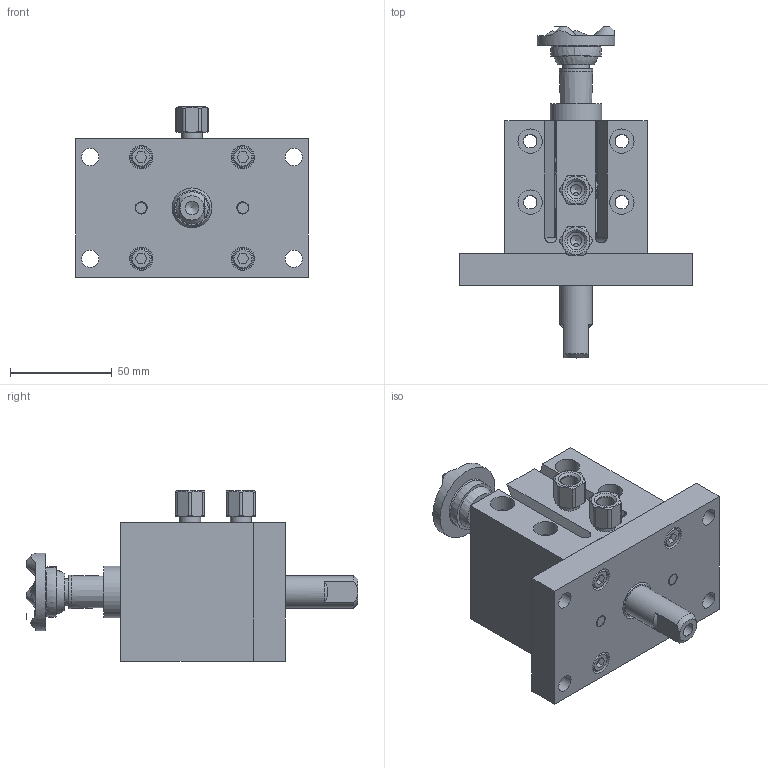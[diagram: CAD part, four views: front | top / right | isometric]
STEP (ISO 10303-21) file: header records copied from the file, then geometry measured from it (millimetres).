
FILE_DESCRIPTION(/* description */ ('PNEUMATIC PASS THRU GROUND UNIT'),/* implementation_level */ '2;1');
FILE_NAME(/* name */ 'C:\Vault Workspace\CAD\Welker\Cylinders\GBP\GBPDN.stp',/* time_stamp */ '2021-06-24T13:59:45-04:00',/* author */ ('KPL'),/* organization */ (''),/* preprocessor_version */ 'ST-DEVELOPER v18.1',/* originating_system */ 'Autodesk Inventor 2020',/* authorisation */ '');
FILE_SCHEMA (('AUTOMOTIVE_DESIGN { 1 0 10303 214 3 1 1 }'));
Products named in the file (12): GBPL01; 6mmX25 ; M6X1-20 SHCS; NL6; WBB1222823; L3 Sensor 1; GBPH25E150200; GBPE01; GBPE02; GBPE03; AN-09U2145; AN-03U2145
Assembly tree (20 placements, depth 2):
  GBPL01
    6mmX25   x2
    M6X1-20 SHCS  x4
    NL6  x4
    WBB1222823  x2
    L3 Sensor 1  x2
    GBPH25E150200
    GBPE01
    GBPE02
    GBPE03
    AN-09U2145
    AN-03U2145
Bounding box: 114.3 x 163.1 x 83.65 mm (x, y, z)
Volume: 396526.6 mm3; surface area: 99435 mm2
Topology: 20 solids, 20 shells, 579 faces, 1521 edges, 1024 vertices
Faces by surface type: plane 347, cylinder 161, cone 59, torus 8, sphere 4
Full cylindrical faces by diameter (mm): 2.5 x2, 2.9 x2, 4.917 x4, 5.588 x2, 6 x10, 6.5 x8, 6.647 x5, 7.95 x2, 8 x2, 8.5 x4, 8.611 x2, 9.525 x1, 10 x4, 10.389 x2, 10.8 x4, 11.5 x4, 12 x4, 13 x1, 13.335 x1, 14.935 x2, 15.875 x4, 15.951 x2, 16.129 x1, 16.364 x1, 19.609 x1, 22.022 x1, 22.225 x1, 22.479 x2, 25.4 x1, 26.162 x1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
Entity records: 12660 total; most frequent: CARTESIAN_POINT 2417, DIRECTION 2137, ORIENTED_EDGE 1924, EDGE_CURVE 962, AXIS2_PLACEMENT_3D 822, VERTEX_POINT 671, LINE 493, VECTOR 493
